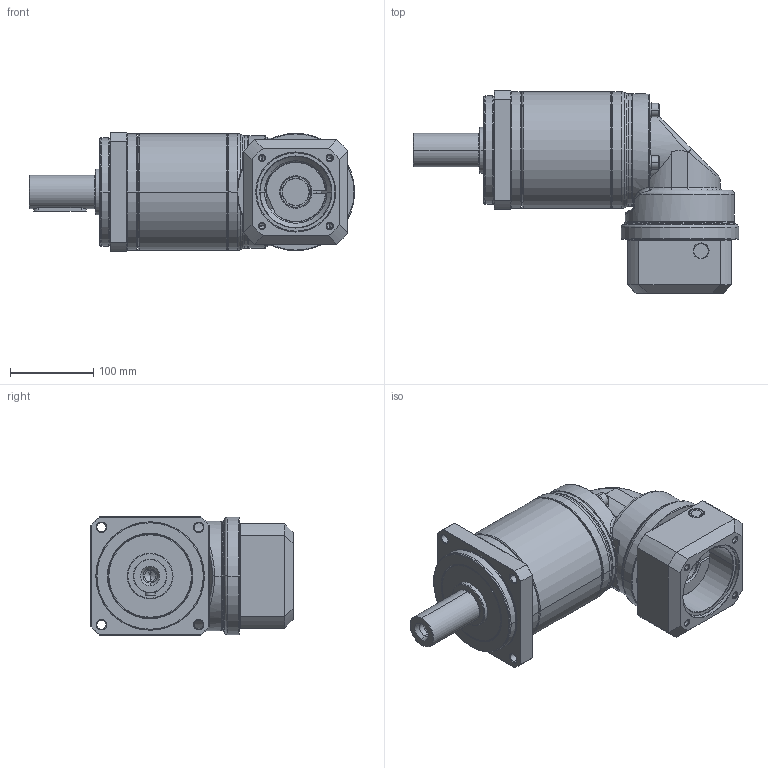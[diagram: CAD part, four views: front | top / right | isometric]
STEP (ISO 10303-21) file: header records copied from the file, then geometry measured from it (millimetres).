
FILE_DESCRIPTION((''),'2;1');
FILE_NAME('PA2R-142_2ST_32-P0411700101_ASM','2016-05-17T',('d01943'),(''),'PRO/ENGINEER BY PARAMETRIC TECHNOLOGY CORPORATION, 2008410','PRO/ENGINEER BY PARAMETRIC TECHNOLOGY CORPORATION, 2008410','');
FILE_SCHEMA(('CONFIG_CONTROL_DESIGN'));
Length unit declared in the file: millimetre
Products named in the file (12): P1327510001; P0251500001; P0350500601; P1349500001; P1017500001; P0713503001; P0503700010; P1350500301; P0411700101; P1702600001; 2111BA10040; PA2R-142_2ST_32-P0411700101_ASM
Assembly tree (14 placements, depth 2):
  PA2R-142_2ST_32-P0411700101_ASM
    P1327510001
    P0251500001
    P0350500601
    P1349500001
    P1017500001
    P0713503001
    P0503700010
    P1350500301
    P0411700101
    P1702600001
    2111BA10040  x4
Bounding box: 390 x 242.5 x 142 mm (x, y, z)
Volume: 3293129.9 mm3; surface area: 530980.3 mm2
Topology: 14 solids, 14 shells, 733 faces, 1618 edges, 935 vertices
Faces by surface type: cylinder 218, cone 212, plane 167, torus 104, bspline 32
Entity records: 23526 total; most frequent: CARTESIAN_POINT 9310, DIRECTION 3137, ORIENTED_EDGE 2764, EDGE_CURVE 1382, AXIS2_PLACEMENT_3D 1321, VERTEX_POINT 815, EDGE_LOOP 713, CIRCLE 693
